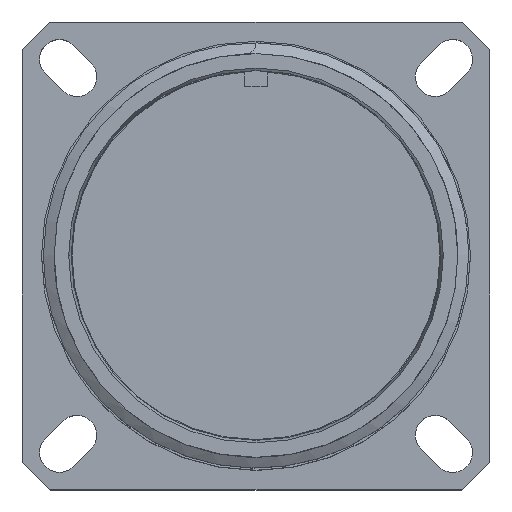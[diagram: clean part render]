
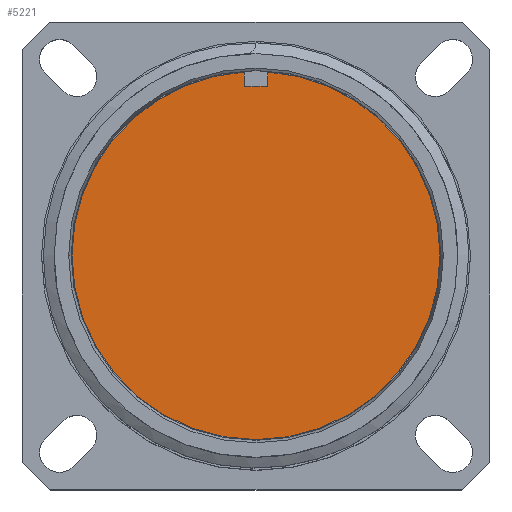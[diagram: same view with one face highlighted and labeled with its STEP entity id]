
A CAD part, top view. The second image highlights one B-rep face of the part: STEP entity #5221.
In plain terms, the highlighted planar face has unit normal (0, 0, 1).
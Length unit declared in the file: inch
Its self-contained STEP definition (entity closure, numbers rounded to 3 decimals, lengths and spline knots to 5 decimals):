
#56 = DIRECTION ( 'NONE',  ( 1., 0., 0. ) ) ;
#458 = CARTESIAN_POINT ( 'NONE',  ( -0.5925, 0., -0.563 ) ) ;
#554 = AXIS2_PLACEMENT_3D ( 'NONE', #4951, #1942, #5356 ) ;
#1312 = VERTEX_POINT ( 'NONE', #458 ) ;
#1376 = AXIS2_PLACEMENT_3D ( 'NONE', #2937, #3699, #2504 ) ;
#1752 = ORIENTED_EDGE ( 'NONE', *, *, #5048, .T. ) ;
#1790 = CIRCLE ( 'NONE', #3407, 0.5925 ) ;
#1800 = EDGE_CURVE ( 'NONE', #4251, #1312, #1790, .T. ) ;
#1942 = DIRECTION ( 'NONE',  ( 0., 0., -1. ) ) ;
#2483 = EDGE_LOOP ( 'NONE', ( #4668, #1752 ) ) ;
#2504 = DIRECTION ( 'NONE',  ( 1., 0., 0. ) ) ;
#2836 = CARTESIAN_POINT ( 'NONE',  ( 0.5925, 0., -0.563 ) ) ;
#2937 = CARTESIAN_POINT ( 'NONE',  ( 0., 0., -0.563 ) ) ;
#3081 = CIRCLE ( 'NONE', #1376, 0.5925 ) ;
#3207 = FACE_OUTER_BOUND ( 'NONE', #2483, .T. ) ;
#3407 = AXIS2_PLACEMENT_3D ( 'NONE', #3926, #4369, #56 ) ;
#3699 = DIRECTION ( 'NONE',  ( 0., 0., 1. ) ) ;
#3926 = CARTESIAN_POINT ( 'NONE',  ( 0., 0., -0.563 ) ) ;
#4085 = PLANE ( 'NONE',  #554 ) ;
#4251 = VERTEX_POINT ( 'NONE', #2836 ) ;
#4369 = DIRECTION ( 'NONE',  ( 0., 0., 1. ) ) ;
#4668 = ORIENTED_EDGE ( 'NONE', *, *, #1800, .T. ) ;
#4951 = CARTESIAN_POINT ( 'NONE',  ( 0., 0.5925, -0.563 ) ) ;
#5048 = EDGE_CURVE ( 'NONE', #1312, #4251, #3081, .T. ) ;
#5221 = ADVANCED_FACE ( 'NONE', ( #3207 ), #4085, .F. ) ;
#5356 = DIRECTION ( 'NONE',  ( -1., 0., 0. ) ) ;
